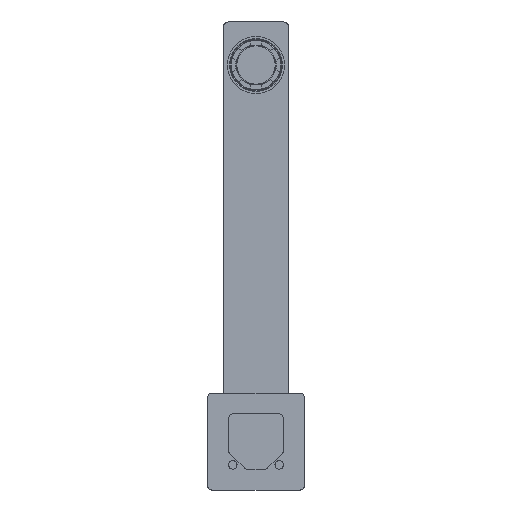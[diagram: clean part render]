
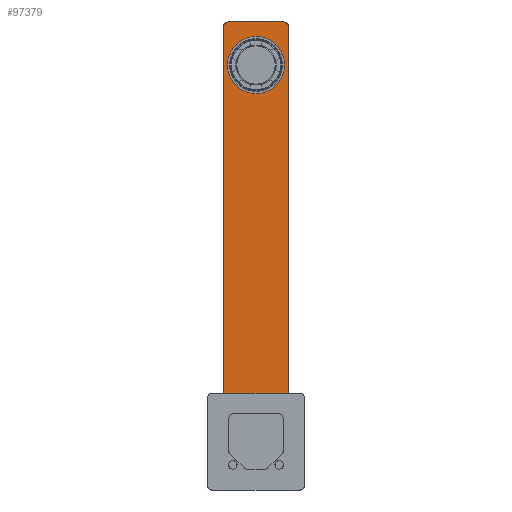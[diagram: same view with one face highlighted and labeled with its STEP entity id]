
A CAD part, front view. The second image highlights one B-rep face of the part: STEP entity #97379.
In plain terms, the highlighted planar face has unit normal (0, -1, 0).
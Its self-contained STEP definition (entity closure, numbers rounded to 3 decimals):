
#96918=CARTESIAN_POINT('',(0.,117.,175.));
#96919=DIRECTION('',(0.,1.,0.));
#96920=DIRECTION('',(0.,0.,1.));
#96921=AXIS2_PLACEMENT_3D('',#96918,#96919,#96920);
#96926=CARTESIAN_POINT('',(0.,117.,175.));
#96927=DIRECTION('',(0.,1.,0.));
#96928=DIRECTION('',(-1.,0.,0.));
#96929=AXIS2_PLACEMENT_3D('',#96926,#96927,#96928);
#96934=CARTESIAN_POINT('',(0.,117.,175.));
#96935=DIRECTION('',(0.,1.,0.));
#96936=DIRECTION('',(0.,0.,-1.));
#96937=AXIS2_PLACEMENT_3D('',#96934,#96935,#96936);
#96942=CARTESIAN_POINT('',(0.,117.,175.));
#96943=DIRECTION('',(0.,1.,0.));
#96944=DIRECTION('',(1.,0.,0.));
#96945=AXIS2_PLACEMENT_3D('',#96942,#96943,#96944);
#96950=CARTESIAN_POINT('',(13.,117.,193.));
#96951=DIRECTION('',(0.,1.,0.));
#96952=DIRECTION('',(0.,0.,1.));
#96953=AXIS2_PLACEMENT_3D('',#96950,#96951,#96952);
#96958=DIRECTION('',(0.,0.,1.));
#96959=VECTOR('',#96958,178.5);
#96960=CARTESIAN_POINT('',(15.,117.,14.5));
#96961=LINE('',#96960,#96959);
#96965=DIRECTION('',(0.707,0.,-0.707));
#96966=VECTOR('',#96965,0.707);
#96967=CARTESIAN_POINT('',(14.5,117.,15.));
#96968=LINE('',#96967,#96966);
#96972=DIRECTION('',(1.,0.,0.));
#96973=VECTOR('',#96972,29.);
#96974=CARTESIAN_POINT('',(-14.5,117.,15.));
#96975=LINE('',#96974,#96973);
#96979=DIRECTION('',(0.707,0.,0.707));
#96980=VECTOR('',#96979,0.707);
#96981=CARTESIAN_POINT('',(-15.,117.,14.5));
#96982=LINE('',#96981,#96980);
#96986=CARTESIAN_POINT('',(-13.,117.,193.));
#96987=DIRECTION('',(0.,1.,0.));
#96988=DIRECTION('',(-1.,0.,0.));
#96989=AXIS2_PLACEMENT_3D('',#96986,#96987,#96988);
#97040=DIRECTION('',(1.,0.,0.));
#97041=VECTOR('',#97040,26.);
#97042=CARTESIAN_POINT('',(-13.,117.,195.));
#97043=LINE('',#97042,#97041);
#97068=DIRECTION('',(0.,0.,1.));
#97069=VECTOR('',#97068,178.5);
#97070=CARTESIAN_POINT('',(-15.,117.,14.5));
#97071=LINE('',#97070,#97069);
#97252=CARTESIAN_POINT('',(-13.05,117.,175.));
#97253=CARTESIAN_POINT('',(0.,117.,188.05));
#97254=VERTEX_POINT('',#97252);
#97255=VERTEX_POINT('',#97253);
#97256=CARTESIAN_POINT('',(0.,117.,161.95));
#97257=VERTEX_POINT('',#97256);
#97264=CARTESIAN_POINT('',(13.05,117.,175.));
#97265=VERTEX_POINT('',#97264);
#97269=CARTESIAN_POINT('',(14.5,117.,15.));
#97271=VERTEX_POINT('',#97269);
#97272=CARTESIAN_POINT('',(-14.5,117.,15.));
#97273=VERTEX_POINT('',#97272);
#97296=CARTESIAN_POINT('',(-15.,117.,14.5));
#97297=VERTEX_POINT('',#97296);
#97298=CARTESIAN_POINT('',(15.,117.,14.5));
#97299=VERTEX_POINT('',#97298);
#97300=CARTESIAN_POINT('',(13.,117.,195.));
#97302=VERTEX_POINT('',#97300);
#97304=CARTESIAN_POINT('',(-13.,117.,195.));
#97306=VERTEX_POINT('',#97304);
#97309=CARTESIAN_POINT('',(-15.,117.,193.));
#97311=VERTEX_POINT('',#97309);
#97312=CARTESIAN_POINT('',(15.,117.,193.));
#97313=VERTEX_POINT('',#97312);
#97348=CARTESIAN_POINT('',(-15.011,117.,195.011));
#97349=DIRECTION('',(0.,-1.,0.));
#97350=DIRECTION('',(0.,0.,-1.));
#97351=AXIS2_PLACEMENT_3D('',#97348,#97349,#97350);
#97352=PLANE('',#97351);
#97354=ORIENTED_EDGE('',*,*,#97353,.T.);
#97356=ORIENTED_EDGE('',*,*,#97355,.F.);
#97358=ORIENTED_EDGE('',*,*,#97357,.F.);
#97360=ORIENTED_EDGE('',*,*,#97359,.F.);
#97362=ORIENTED_EDGE('',*,*,#97361,.F.);
#97364=ORIENTED_EDGE('',*,*,#97363,.T.);
#97366=ORIENTED_EDGE('',*,*,#97365,.T.);
#97368=ORIENTED_EDGE('',*,*,#97367,.T.);
#97369=EDGE_LOOP('',(#97354,#97356,#97358,#97360,#97362,#97364,#97366,#97368));
#97370=FACE_OUTER_BOUND('',#97369,.F.);
#97372=ORIENTED_EDGE('',*,*,#97371,.F.);
#97373=ORIENTED_EDGE('',*,*,#97321,.F.);
#97374=ORIENTED_EDGE('',*,*,#97331,.F.);
#97376=ORIENTED_EDGE('',*,*,#97375,.F.);
#97377=EDGE_LOOP('',(#97372,#97373,#97374,#97376));
#97378=FACE_BOUND('',#97377,.F.);
#96922=CIRCLE('',#96921,13.05);
#96930=CIRCLE('',#96929,13.05);
#96938=CIRCLE('',#96937,13.05);
#96946=CIRCLE('',#96945,13.05);
#96954=CIRCLE('',#96953,2.);
#96990=CIRCLE('',#96989,2.);
#97321=EDGE_CURVE('',#97254,#97255,#96930,.T.);
#97331=EDGE_CURVE('',#97257,#97254,#96938,.T.);
#97353=EDGE_CURVE('',#97302,#97313,#96954,.T.);
#97355=EDGE_CURVE('',#97299,#97313,#96961,.T.);
#97357=EDGE_CURVE('',#97271,#97299,#96968,.T.);
#97359=EDGE_CURVE('',#97273,#97271,#96975,.T.);
#97361=EDGE_CURVE('',#97297,#97273,#96982,.T.);
#97363=EDGE_CURVE('',#97297,#97311,#97071,.T.);
#97365=EDGE_CURVE('',#97311,#97306,#96990,.T.);
#97367=EDGE_CURVE('',#97306,#97302,#97043,.T.);
#97371=EDGE_CURVE('',#97255,#97265,#96922,.T.);
#97375=EDGE_CURVE('',#97265,#97257,#96946,.T.);
#97379=ADVANCED_FACE('',(#97370,#97378),#97352,.T.);
